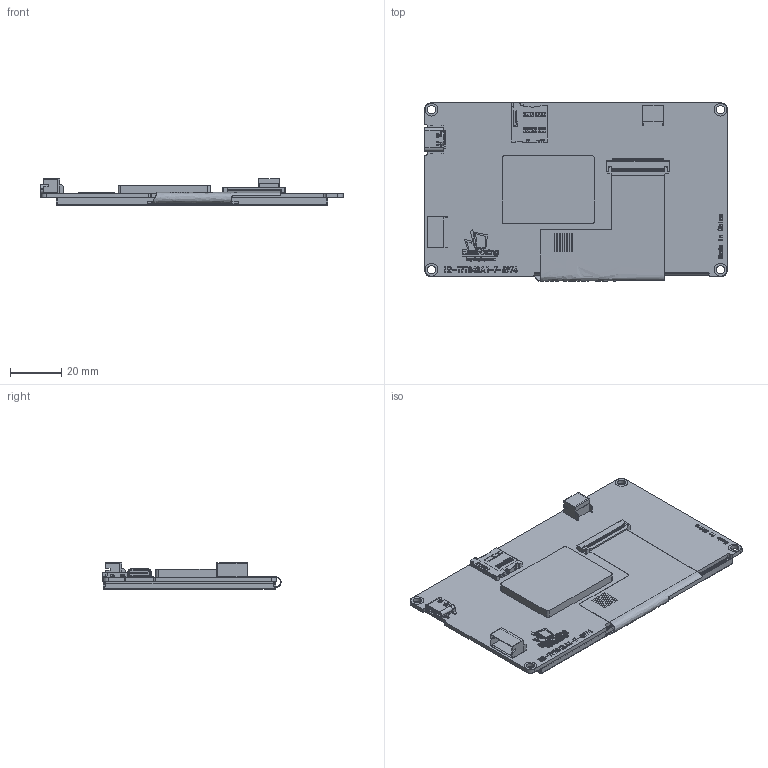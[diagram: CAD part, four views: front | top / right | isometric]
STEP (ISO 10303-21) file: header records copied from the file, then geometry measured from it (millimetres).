
FILE_DESCRIPTION (( 'STEP AP214' ), '1' );
FILE_NAME ('ER-TFT043A1-7-5974.STEP', '2024-07-01T00:45:03', ( '微软用户' ), ( '微软中国' ), 'SwSTEP 2.0', 'SolidWorks 2023', '' );
FILE_SCHEMA (( 'AUTOMOTIVE_DESIGN' ));
Length unit declared in the file: millimetre
Products named in the file (8): FPC Connector_0.5-40P; USB_type_C_; ER-microSD; 2.0-4P; PCBA4.3寸; 2.0-2P; ER-TFT043A1-7-5974; ER-TFT043A1-7
Assembly tree (7 placements, depth 2):
  ER-TFT043A1-7-5974
    PCBA4.3寸
    ER-TFT043A1-7
    2.0-4P
    USB_type_C_
    2.0-2P
    FPC Connector_0.5-40P
    ER-microSD
Bounding box: 117.5 x 69.21 x 10.2 mm (x, y, z)
Volume: 36760.6 mm3; surface area: 58702.2 mm2
Topology: 154 solids, 154 shells, 3465 faces, 8813 edges, 5789 vertices
Faces by surface type: plane 2594, cylinder 426, bspline 413, torus 32
Entity records: 145794 total; most frequent: CARTESIAN_POINT 37291, ORIENTED_EDGE 17578, DIRECTION 14768, EDGE_CURVE 8789, VECTOR 7108, LINE 7108, VERTEX_POINT 5789, AXIS2_PLACEMENT_3D 3830
